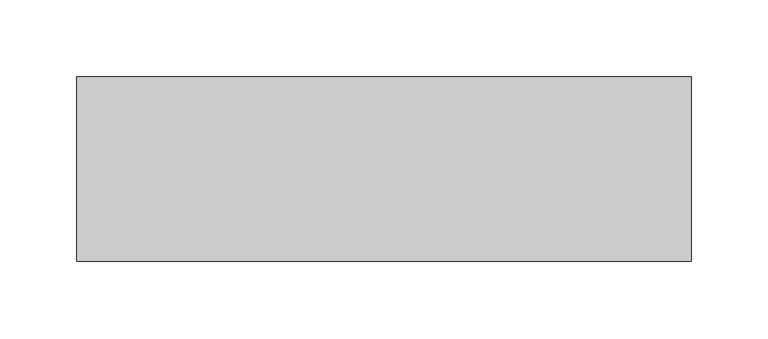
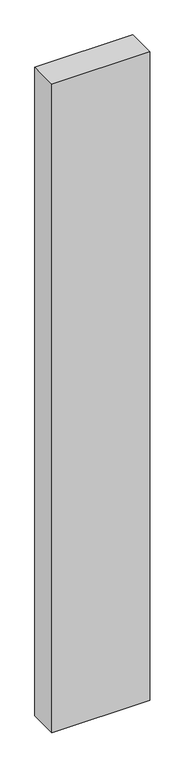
"""IFC4 building model written with IfcOpenShell, lengths in millimetres: column geometry, Coluna de Sustentação de tijolo Maciço : coluna da quadra."""

from ifc_helpers import new_model, si_unit, frame, origin, place, context, project, spatial, polyline, outline, extrude, source, transform, mapped, element, save


def column_c75dbdb2(model_context):
    return source(origin(), model_context, "Body", "SweptSolid", [
        extrude(outline(polyline([(200.0, 60.0), (200.0, -60.0), (-200.0, -60.0), (-200.0, 60.0), (200.0, 60.0)])), frame((0.0, 0.0, 200.0), z_axis=(0.0, 0.0, 1.0), x_axis=(1.0, 0.0, 0.0)), (0.0, 0.0, 1.0), 2800.0),
    ])


if __name__ == "__main__":
    model = new_model("IFC4")
    model_context = context("Model", 3, world=origin())
    ifc_project = project(units=[si_unit("LENGTHUNIT", "METRE", prefix="MILLI")], contexts=[model_context])
    site = spatial("IfcSite", under=ifc_project)
    building = spatial("IfcBuilding", under=site)
    placement = place(None, origin())
    column_shape = column_c75dbdb2(model_context)
    element("IfcColumn", 1, ObjectType="Coluna de Sustentação de tijolo Maciço : coluna da quadra", at=placement, inside=building, context=model_context, shape_type="MappedRepresentation", body=[
        mapped(column_shape, transform((0.0, 0.0, 0.0), x_axis=(1.0, 0.0, 0.0), y_axis=(0.0, 1.0, 0.0), z_axis=(0.0, 0.0, 1.0))),
    ])
    save(model, "model.ifc")
